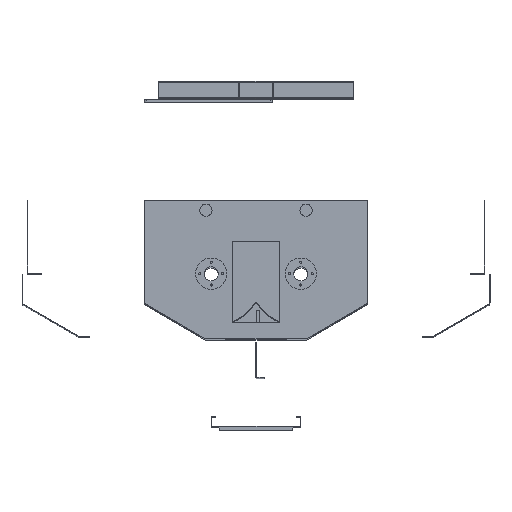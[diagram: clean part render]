
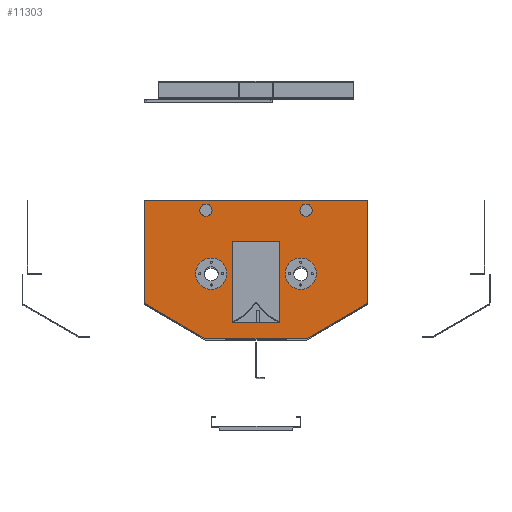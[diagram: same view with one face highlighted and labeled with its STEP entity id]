
A CAD part, top view. The second image highlights one B-rep face of the part: STEP entity #11303.
In plain terms, the highlighted planar face has unit normal (0, 0, 1) as drawn and (0, 0, -1) by its records, which use the part's own axes.
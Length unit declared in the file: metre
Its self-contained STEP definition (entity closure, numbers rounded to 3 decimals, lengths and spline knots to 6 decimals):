
#11152=CARTESIAN_POINT('',(0.879,-0.159071,-1.31762));
#11153=DIRECTION('',(0.,0.,1.));
#11154=DIRECTION('',(1.,-0.,0.));
#11155=AXIS2_PLACEMENT_3D('',#11152,#11153,#11154);
#11156=PLANE('',#11155);
#11157=CARTESIAN_POINT('',(0.120001,0.185,-1.31762));
#11158=VERTEX_POINT('84623',#11157);
#11159=CARTESIAN_POINT('',(0.395,0.185,-1.31762));
#11160=VERTEX_POINT('56187',#11159);
#11161=CARTESIAN_POINT('',(0.120001,0.185,-1.31762));
#11162=DIRECTION('',(1.,0.,-0.));
#11163=VECTOR('',#11162,0.274999);
#11164=LINE('',#11161,#11163);
#11165=EDGE_CURVE('56191',#11158,#11160,#11164,.T.);
#11166=ORIENTED_EDGE('',*,*,#11165,.F.);
#11167=CARTESIAN_POINT('',(0.120001,-0.279,-1.31762));
#11168=VERTEX_POINT('9957',#11167);
#11169=CARTESIAN_POINT('',(0.120001,-0.279,-1.31762));
#11170=DIRECTION('',(0.,1.,0.));
#11171=VECTOR('',#11170,0.464);
#11172=LINE('',#11169,#11171);
#11173=EDGE_CURVE('65044',#11168,#11158,#11172,.T.);
#11174=ORIENTED_EDGE('',*,*,#11173,.F.);
#11175=CARTESIAN_POINT('',(0.395,-0.279,-1.31762));
#11176=VERTEX_POINT('56210',#11175);
#11177=CARTESIAN_POINT('',(0.395,-0.279,-1.31762));
#11178=DIRECTION('',(-1.,0.,0.));
#11179=VECTOR('',#11178,0.274999);
#11180=LINE('',#11177,#11179);
#11181=EDGE_CURVE('9997',#11176,#11168,#11180,.T.);
#11182=ORIENTED_EDGE('',*,*,#11181,.F.);
#11183=CARTESIAN_POINT('',(0.395,-0.279,-1.31762));
#11184=DIRECTION('',(0.,1.,0.));
#11185=VECTOR('',#11184,0.464);
#11186=LINE('',#11183,#11185);
#11187=EDGE_CURVE('56211',#11176,#11160,#11186,.T.);
#11188=ORIENTED_EDGE('',*,*,#11187,.T.);
#11189=EDGE_LOOP('',(#11166,#11174,#11182,#11188));
#11190=FACE_BOUND('',#11189,.T.);
#11191=CARTESIAN_POINT('',(0.005,0.365,-1.31762));
#11192=VERTEX_POINT('',#11191);
#11193=CARTESIAN_POINT('',(-0.03,0.365,-1.31762));
#11194=DIRECTION('',(0.,0.,1.));
#11195=DIRECTION('',(1.,-0.,0.));
#11196=AXIS2_PLACEMENT_3D('',#11193,#11194,#11195);
#11197=CIRCLE('',#11196,0.035);
#11198=EDGE_CURVE('10182',#11192,#11192,#11197,.T.);
#11199=ORIENTED_EDGE('',*,*,#11198,.T.);
#11200=EDGE_LOOP('',(#11199));
#11201=FACE_BOUND('',#11200,.T.);
#11202=CARTESIAN_POINT('',(0.58,0.365,-1.31762));
#11203=VERTEX_POINT('',#11202);
#11204=CARTESIAN_POINT('',(0.545,0.365,-1.31762));
#11205=DIRECTION('',(0.,0.,1.));
#11206=DIRECTION('',(1.,-0.,0.));
#11207=AXIS2_PLACEMENT_3D('',#11204,#11205,#11206);
#11208=CIRCLE('',#11207,0.035);
#11209=EDGE_CURVE('10433',#11203,#11203,#11208,.T.);
#11210=ORIENTED_EDGE('',*,*,#11209,.T.);
#11211=EDGE_LOOP('',(#11210));
#11212=FACE_BOUND('',#11211,.T.);
#11213=CARTESIAN_POINT('',(-0.384,0.422,-1.31762));
#11214=VERTEX_POINT('10689',#11213);
#11215=CARTESIAN_POINT('',(-0.384,-0.159071,-1.31762));
#11216=VERTEX_POINT('10725',#11215);
#11217=CARTESIAN_POINT('',(-0.384,0.422,-1.31762));
#11218=DIRECTION('',(0.,-1.,0.));
#11219=VECTOR('',#11218,0.581071);
#11220=LINE('',#11217,#11219);
#11221=EDGE_CURVE('10381',#11214,#11216,#11220,.T.);
#11222=ORIENTED_EDGE('',*,*,#11221,.F.);
#11223=CARTESIAN_POINT('',(0.899,0.422,-1.31762));
#11224=VERTEX_POINT('10729',#11223);
#11225=CARTESIAN_POINT('',(0.899,0.422,-1.31762));
#11226=DIRECTION('',(-1.,0.,0.));
#11227=VECTOR('',#11226,1.283);
#11228=LINE('',#11225,#11227);
#11229=EDGE_CURVE('10189',#11224,#11214,#11228,.T.);
#11230=ORIENTED_EDGE('',*,*,#11229,.F.);
#11231=CARTESIAN_POINT('',(0.899,-0.159071,-1.31762));
#11232=VERTEX_POINT('10756',#11231);
#11233=CARTESIAN_POINT('',(0.899,-0.159071,-1.31762));
#11234=DIRECTION('',(0.,1.,0.));
#11235=VECTOR('',#11234,0.581071);
#11236=LINE('',#11233,#11235);
#11237=EDGE_CURVE('10445',#11232,#11224,#11236,.T.);
#11238=ORIENTED_EDGE('',*,*,#11237,.F.);
#11239=CARTESIAN_POINT('',(0.889,-0.176392,-1.31762));
#11240=VERTEX_POINT('10741',#11239);
#11241=CARTESIAN_POINT('',(0.879,-0.159071,-1.31762));
#11242=DIRECTION('',(0.,0.,1.));
#11243=DIRECTION('',(1.,-0.,0.));
#11244=AXIS2_PLACEMENT_3D('',#11241,#11242,#11243);
#11245=CIRCLE('',#11244,0.02);
#11246=EDGE_CURVE('10171',#11240,#11232,#11245,.T.);
#11247=ORIENTED_EDGE('',*,*,#11246,.F.);
#11248=CARTESIAN_POINT('',(0.545,-0.375,-1.31762));
#11249=VERTEX_POINT('10723',#11248);
#11250=CARTESIAN_POINT('',(0.545,-0.375,-1.31762));
#11251=DIRECTION('',(0.866,0.5,0.));
#11252=VECTOR('',#11251,0.397217);
#11253=LINE('',#11250,#11252);
#11254=EDGE_CURVE('10435',#11249,#11240,#11253,.T.);
#11255=ORIENTED_EDGE('',*,*,#11254,.F.);
#11256=CARTESIAN_POINT('',(-0.03,-0.375,-1.31762));
#11257=VERTEX_POINT('10727',#11256);
#11258=CARTESIAN_POINT('',(-0.03,-0.375,-1.31762));
#11259=DIRECTION('',(1.,0.,-0.));
#11260=VECTOR('',#11259,0.575);
#11261=LINE('',#11258,#11260);
#11262=EDGE_CURVE('10173',#11257,#11249,#11261,.T.);
#11263=ORIENTED_EDGE('',*,*,#11262,.F.);
#11264=CARTESIAN_POINT('',(-0.374,-0.176392,-1.31762));
#11265=VERTEX_POINT('10739',#11264);
#11266=CARTESIAN_POINT('',(-0.374,-0.176392,-1.31762));
#11267=DIRECTION('',(0.866,-0.5,0.));
#11268=VECTOR('',#11267,0.397217);
#11269=LINE('',#11266,#11268);
#11270=EDGE_CURVE('10184',#11265,#11257,#11269,.T.);
#11271=ORIENTED_EDGE('',*,*,#11270,.F.);
#11272=CARTESIAN_POINT('',(-0.364,-0.159071,-1.31762));
#11273=DIRECTION('',(0.,0.,1.));
#11274=DIRECTION('',(1.,-0.,0.));
#11275=AXIS2_PLACEMENT_3D('',#11272,#11273,#11274);
#11276=CIRCLE('',#11275,0.02);
#11277=EDGE_CURVE('10427',#11216,#11265,#11276,.T.);
#11278=ORIENTED_EDGE('',*,*,#11277,.F.);
#11279=EDGE_LOOP('',(#11222,#11230,#11238,#11247,#11255,#11263,#11271,#11278));
#11280=FACE_BOUND('',#11279,.T.);
#11281=CARTESIAN_POINT('',(0.605,0.,-1.31762));
#11282=VERTEX_POINT('',#11281);
#11283=CARTESIAN_POINT('',(0.515,0.,-1.31762));
#11284=DIRECTION('',(0.,0.,-1.));
#11285=DIRECTION('',(1.,0.,0.));
#11286=AXIS2_PLACEMENT_3D('',#11283,#11284,#11285);
#11287=CIRCLE('',#11286,0.09);
#11288=EDGE_CURVE('10419',#11282,#11282,#11287,.T.);
#11289=ORIENTED_EDGE('',*,*,#11288,.F.);
#11290=EDGE_LOOP('',(#11289));
#11291=FACE_BOUND('',#11290,.T.);
#11292=CARTESIAN_POINT('',(0.09,0.,-1.31762));
#11293=VERTEX_POINT('',#11292);
#11294=CARTESIAN_POINT('',(0.,0.,-1.31762));
#11295=DIRECTION('',(0.,0.,-1.));
#11296=DIRECTION('',(1.,0.,0.));
#11297=AXIS2_PLACEMENT_3D('',#11294,#11295,#11296);
#11298=CIRCLE('',#11297,0.09);
#11299=EDGE_CURVE('10411',#11293,#11293,#11298,.T.);
#11300=ORIENTED_EDGE('',*,*,#11299,.F.);
#11301=EDGE_LOOP('',(#11300));
#11302=FACE_BOUND('',#11301,.T.);
#11303=ADVANCED_FACE('10127',(#11190,#11201,#11212,#11280,#11291,#11302),#11156,.F.);
